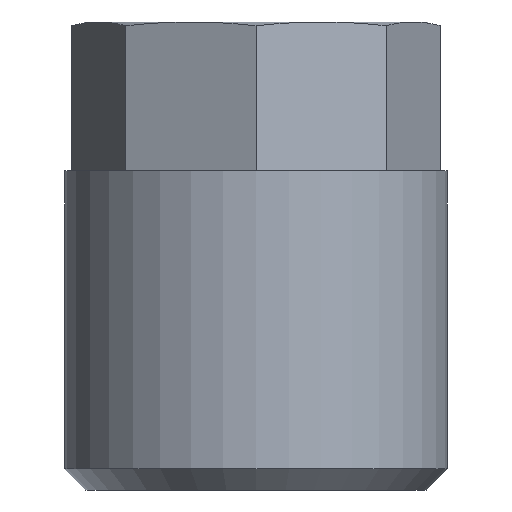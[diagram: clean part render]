
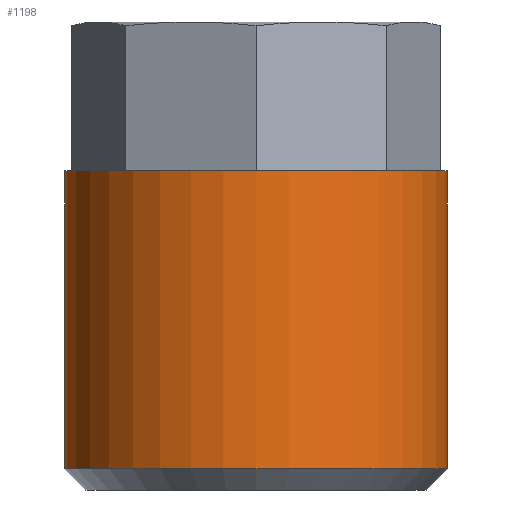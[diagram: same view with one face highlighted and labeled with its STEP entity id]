
A CAD part, front view. The second image highlights one B-rep face of the part: STEP entity #1198.
In plain terms, the highlighted cylindrical face has radius 4.5 mm (diameter 9 mm), a full revolution.
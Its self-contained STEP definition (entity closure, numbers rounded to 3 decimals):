
#555=CYLINDRICAL_SURFACE('',#1125,4.5);
#599=ORIENTED_EDGE('',*,*,#742,.F.);
#600=ORIENTED_EDGE('',*,*,#751,.T.);
#690=CIRCLE('',#1124,4.5);
#691=CIRCLE('',#1126,4.5);
#708=VERTEX_POINT('',#1011);
#717=VERTEX_POINT('',#1030);
#742=EDGE_CURVE('',#708,#708,#690,.T.);
#751=EDGE_CURVE('',#717,#717,#691,.T.);
#794=EDGE_LOOP('',(#599));
#795=EDGE_LOOP('',(#600));
#832=FACE_BOUND('',#794,.T.);
#833=FACE_BOUND('',#795,.T.);
#870=DIRECTION('',(0.,1.,0.));
#871=DIRECTION('',(0.,0.,-4.5));
#880=DIRECTION('',(0.,1.,0.));
#881=DIRECTION('',(1.,0.,0.));
#882=DIRECTION('',(0.,1.,0.));
#883=DIRECTION('',(0.,0.,4.5));
#1011=CARTESIAN_POINT('',(7.334,10.545,-4.5));
#1012=CARTESIAN_POINT('',(7.334,10.545,0.));
#1029=CARTESIAN_POINT('',(7.334,3.545,0.));
#1030=CARTESIAN_POINT('',(7.334,3.545,4.5));
#1031=CARTESIAN_POINT('',(7.334,3.545,0.));
#1124=AXIS2_PLACEMENT_3D('',#1012,#870,#871);
#1125=AXIS2_PLACEMENT_3D('',#1029,#880,#881);
#1126=AXIS2_PLACEMENT_3D('',#1031,#882,#883);
#1198=ADVANCED_FACE('',(#832,#833),#555,.T.);
